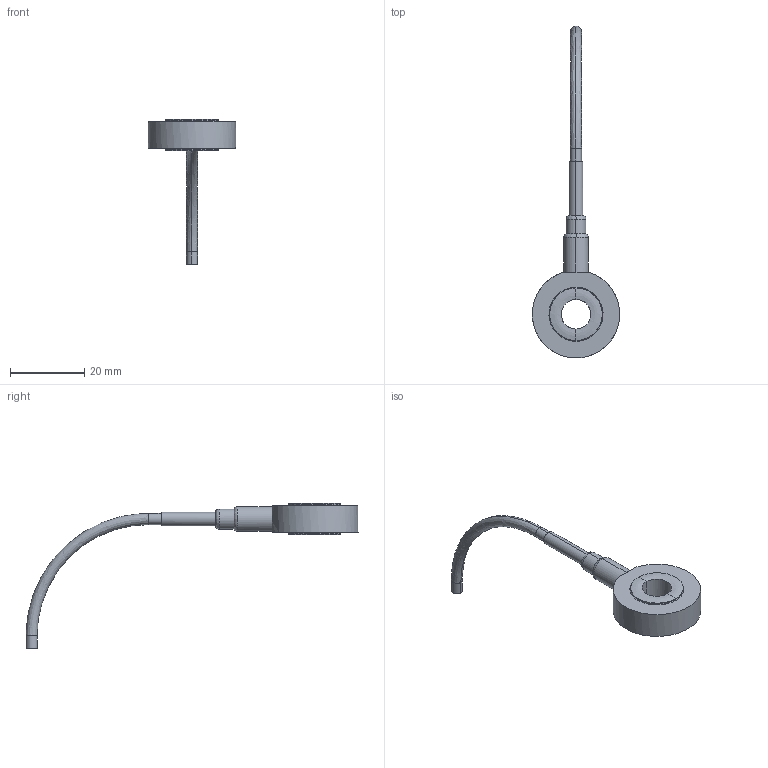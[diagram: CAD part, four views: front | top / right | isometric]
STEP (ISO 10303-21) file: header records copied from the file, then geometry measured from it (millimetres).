
FILE_DESCRIPTION (( 'STEP AP214' ), '1' );
FILE_NAME ('Soemer-SM71-M8-40kN.STEP', '2023-09-26T11:57:08', ( '' ), ( '' ), 'SwSTEP 2.0', 'SolidWorks 2019', '' );
FILE_SCHEMA (( 'AUTOMOTIVE_DESIGN' ));
Length unit declared in the file: millimetre
Products named in the file (2): Soemer-SM71-M8-40kN
Bounding box: 23.55 x 89.62 x 39.25 mm (x, y, z)
Volume: 3932.4 mm3; surface area: 2536.5 mm2
Topology: 1 solids, 1 shells, 39 faces, 80 edges, 44 vertices
Faces by surface type: bspline 31, plane 8
Entity records: 2697 total; most frequent: CARTESIAN_POINT 2044, ORIENTED_EDGE 160, EDGE_CURVE 80, B_SPLINE_CURVE_WITH_KNOTS 56, VERTEX_POINT 44, DIRECTION 44, EDGE_LOOP 42, ADVANCED_FACE 39
